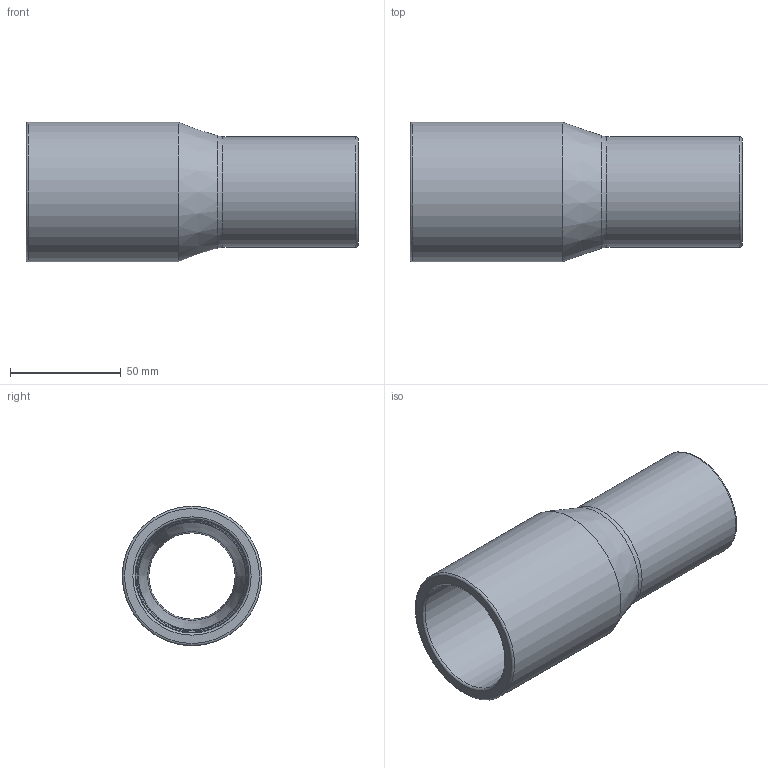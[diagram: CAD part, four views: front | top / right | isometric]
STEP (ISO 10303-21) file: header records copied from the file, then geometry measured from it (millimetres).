
FILE_DESCRIPTION(/* description */ (''),/* implementation_level */ '2;1');
FILE_NAME(/* name */ 'X:\Bänninger\ACAD\Katalogteile\PE\Reduktion\Reduktion 63-50.stp',/* time_stamp */ '2018-12-06T09:33:34+01:00',/* author */ ('Kathrin.Davari'),/* organization */ (''),/* preprocessor_version */ 'ST-DEVELOPER v15.2',/* originating_system */ 'Autodesk Inventor 2014',/* authorisation */ '473802 mm^3');
FILE_SCHEMA (('AUTOMOTIVE_DESIGN { 1 0 10303 214 3 1 1 }'));
Length unit declared in the file: millimetre
Products named in the file (1): Reduktion 63-50-40-32
Bounding box: 150 x 63 x 63 mm (x, y, z)
Volume: 135907.9 mm3; surface area: 50007.1 mm2
Topology: 1 solids, 1 shells, 23 faces, 44 edges, 23 vertices
Faces by surface type: torus 11, cylinder 6, cone 4, plane 2
Full cylindrical faces by diameter (mm): 39 x1, 40.8 x1, 49 x1, 50 x1, 51.4 x1, 63 x1
Entity records: 492 total; most frequent: DIRECTION 94, CARTESIAN_POINT 70, AXIS2_PLACEMENT_3D 47, EDGE_LOOP 46, ORIENTED_EDGE 46, FACE_BOUND 23, FACE_OUTER_BOUND 23, CIRCLE 23
